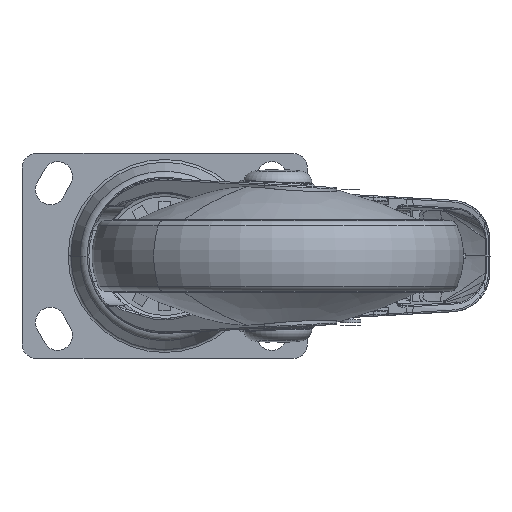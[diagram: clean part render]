
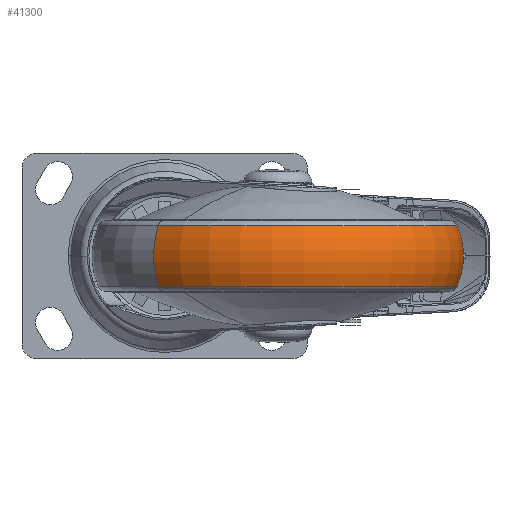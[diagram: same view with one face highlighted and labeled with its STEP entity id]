
A CAD part, front view. The second image highlights one B-rep face of the part: STEP entity #41300.
In plain terms, the highlighted toroidal (fillet/blend) face has major radius 37.5 mm and minor radius 25 mm.
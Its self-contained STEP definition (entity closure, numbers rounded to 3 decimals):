
#41112=CARTESIAN_POINT('',(38.,-82.3,10.137));
#41113=DIRECTION('',(0.,0.,-1.));
#41114=DIRECTION('',(0.667,0.745,0.));
#41115=AXIS2_PLACEMENT_3D('',#41112,#41113,#41114);
#41117=CARTESIAN_POINT('',(63.001,-54.35,0.));
#41118=DIRECTION('',(-0.745,0.667,0.));
#41119=DIRECTION('',(0.609,0.681,0.405));
#41120=AXIS2_PLACEMENT_3D('',#41117,#41118,#41119);
#41122=CARTESIAN_POINT('',(38.,-82.3,-10.137));
#41123=DIRECTION('',(0.,0.,-1.));
#41124=DIRECTION('',(0.667,0.745,0.));
#41125=AXIS2_PLACEMENT_3D('',#41122,#41123,#41124);
#41127=CARTESIAN_POINT('',(12.999,-110.25,0.));
#41128=DIRECTION('',(0.745,-0.667,0.));
#41129=DIRECTION('',(-0.609,-0.681,0.405));
#41130=AXIS2_PLACEMENT_3D('',#41127,#41128,#41129);
#41202=CARTESIAN_POINT('',(78.236,-37.317,
10.137));
#41203=CARTESIAN_POINT('',(-2.236,-127.283,
10.137));
#41204=VERTEX_POINT('',#41202);
#41205=VERTEX_POINT('',#41203);
#41214=CARTESIAN_POINT('',(-2.236,-127.283,
-10.137));
#41215=CARTESIAN_POINT('',(78.236,-37.317,
-10.137));
#41216=VERTEX_POINT('',#41214);
#41217=VERTEX_POINT('',#41215);
#41288=CARTESIAN_POINT('',(38.,-82.3,0.));
#41289=DIRECTION('',(0.,0.,1.));
#41290=DIRECTION('',(-0.667,-0.745,0.));
#41291=AXIS2_PLACEMENT_3D('',#41288,#41289,#41290);
#41292=TOROIDAL_SURFACE('',#41291,37.5,25.);
#41293=ORIENTED_EDGE('',*,*,#41272,.F.);
#41294=ORIENTED_EDGE('',*,*,#41233,.T.);
#41296=ORIENTED_EDGE('',*,*,#41295,.T.);
#41297=ORIENTED_EDGE('',*,*,#41229,.F.);
#41298=EDGE_LOOP('',(#41293,#41294,#41296,#41297));
#41299=FACE_OUTER_BOUND('',#41298,.F.);
#41116=CIRCLE('',#41115,60.352);
#41121=CIRCLE('',#41120,25.);
#41126=CIRCLE('',#41125,60.352);
#41131=CIRCLE('',#41130,25.);
#41229=EDGE_CURVE('',#41205,#41216,#41131,.T.);
#41233=EDGE_CURVE('',#41204,#41217,#41121,.T.);
#41272=EDGE_CURVE('',#41204,#41205,#41116,.T.);
#41295=EDGE_CURVE('',#41217,#41216,#41126,.T.);
#41300=ADVANCED_FACE('',(#41299),#41292,.T.);
